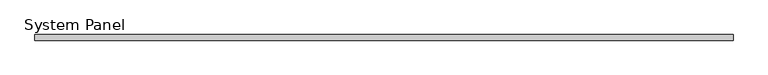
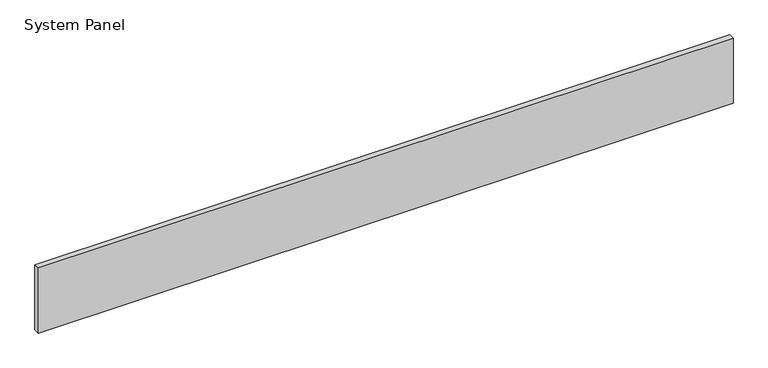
"""IFC4 building model written with IfcOpenShell, lengths in millimetres: plate geometry, System Panel : VACÍO."""

from ifc_helpers import new_model, si_unit, origin, origin_with_axes, place, context, project, spatial, polyline, outline, extrude, source, transform, mapped, element, save


def system_panel_e1d120a6(model_context):
    return source(origin(), model_context, "Body", "SweptSolid", [
        extrude(outline(polyline([(619.0, -5.0), (-619.0, -5.0), (-619.0, 5.0), (619.0, 5.0), (619.0, -5.0)])), origin_with_axes(), (0.0, 0.0, 1.0), 122.8888889),
    ])


if __name__ == "__main__":
    model = new_model("IFC4")
    model_context = context("Model", 3, world=origin())
    ifc_project = project(units=[si_unit("LENGTHUNIT", "METRE", prefix="MILLI")], contexts=[model_context])
    site = spatial("IfcSite", under=ifc_project)
    building = spatial("IfcBuilding", under=site)
    placement = place(None, origin())
    system_panel_shape = system_panel_e1d120a6(model_context)
    element("IfcPlate", 1, ObjectType="System Panel : VACÍO", at=placement, inside=building, context=model_context, shape_type="MappedRepresentation", body=[
        mapped(system_panel_shape, transform((0.0, 0.0, 0.0), x_axis=(1.0, 0.0, 0.0), y_axis=(0.0, 1.0, 0.0), z_axis=(0.0, 0.0, 1.0))),
    ])
    save(model, "model.ifc")
